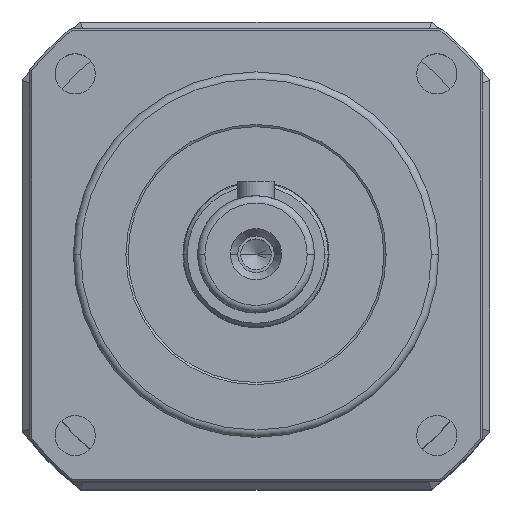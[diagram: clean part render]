
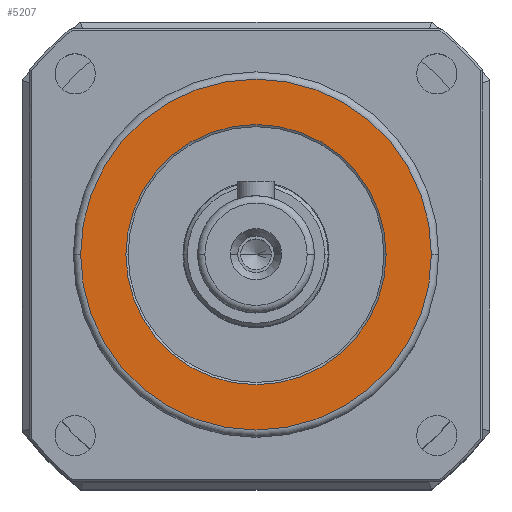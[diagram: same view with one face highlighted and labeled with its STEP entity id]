
A CAD part, top view. The second image highlights one B-rep face of the part: STEP entity #5207.
In plain terms, the highlighted planar face has unit normal (0, 0, 1).
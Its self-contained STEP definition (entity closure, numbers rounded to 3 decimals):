
#3297 = CARTESIAN_POINT ( 'NONE',  ( 0., 0., 7. ) ) ;
#3298 = DIRECTION ( 'NONE',  ( 0., 0., -1. ) ) ;
#3299 = DIRECTION ( 'NONE',  ( 1., 0., 0. ) ) ;
#3300 = CARTESIAN_POINT ( 'NONE',  ( 0., 0., 7. ) ) ;
#3301 = DIRECTION ( 'NONE',  ( 0., 0., 1. ) ) ;
#3302 = DIRECTION ( 'NONE',  ( 1., 0., 0. ) ) ;
#3692 = EDGE_LOOP ( 'NONE', ( #10149, #10151 ) ) ;
#5207 = ADVANCED_FACE ( 'NONE', ( #8643, #8645 ), #7720, .T. ) ;
#5496 = AXIS2_PLACEMENT_3D ( 'NONE', #7721, #7722, #7723 ) ;
#6474 = CIRCLE ( 'NONE', #6488, 24. ) ;
#6479 = CIRCLE ( 'NONE', #6481, 17.8 ) ;
#6481 = AXIS2_PLACEMENT_3D ( 'NONE', #15282, #15283, #15284 ) ;
#6488 = AXIS2_PLACEMENT_3D ( 'NONE', #15293, #15294, #15295 ) ;
#7720 = PLANE ( 'NONE',  #5496 ) ;
#7721 = CARTESIAN_POINT ( 'NONE',  ( 0., 0., 7. ) ) ;
#7722 = DIRECTION ( 'NONE',  ( 0., 0., 1. ) ) ;
#7723 = DIRECTION ( 'NONE',  ( 1., 0., 0. ) ) ;
#8643 = FACE_BOUND ( 'NONE', #3692, .T. ) ;
#8645 = FACE_OUTER_BOUND ( 'NONE', #17922, .T. ) ;
#8788 = CARTESIAN_POINT ( 'NONE',  ( 24., 0., 7. ) ) ;
#8789 = CARTESIAN_POINT ( 'NONE',  ( -24., 0., 7. ) ) ;
#8795 = CARTESIAN_POINT ( 'NONE',  ( 17.8, 0., 7. ) ) ;
#8797 = CARTESIAN_POINT ( 'NONE',  ( -17.8, 0., 7. ) ) ;
#9583 = EDGE_CURVE ( 'NONE', #18395, #18394, #16875, .T. ) ;
#9584 = EDGE_CURVE ( 'NONE', #18391, #18390, #16879, .T. ) ;
#10149 = ORIENTED_EDGE ( 'NONE', *, *, #10447, .T. ) ;
#10151 = ORIENTED_EDGE ( 'NONE', *, *, #9583, .T. ) ;
#10152 = ORIENTED_EDGE ( 'NONE', *, *, #9584, .T. ) ;
#10153 = ORIENTED_EDGE ( 'NONE', *, *, #10451, .T. ) ;
#10447 = EDGE_CURVE ( 'NONE', #18394, #18395, #6479, .T. ) ;
#10451 = EDGE_CURVE ( 'NONE', #18390, #18391, #6474, .T. ) ;
#15282 = CARTESIAN_POINT ( 'NONE',  ( 0., 0., 7. ) ) ;
#15283 = DIRECTION ( 'NONE',  ( 0., 0., -1. ) ) ;
#15284 = DIRECTION ( 'NONE',  ( 1., 0., 0. ) ) ;
#15293 = CARTESIAN_POINT ( 'NONE',  ( 0., 0., 7. ) ) ;
#15294 = DIRECTION ( 'NONE',  ( 0., 0., 1. ) ) ;
#15295 = DIRECTION ( 'NONE',  ( 1., 0., 0. ) ) ;
#16875 = CIRCLE ( 'NONE', #16878, 17.8 ) ;
#16878 = AXIS2_PLACEMENT_3D ( 'NONE', #3297, #3298, #3299 ) ;
#16879 = CIRCLE ( 'NONE', #16880, 24. ) ;
#16880 = AXIS2_PLACEMENT_3D ( 'NONE', #3300, #3301, #3302 ) ;
#17922 = EDGE_LOOP ( 'NONE', ( #10153, #10152 ) ) ;
#18390 = VERTEX_POINT ( 'NONE', #8788 ) ;
#18391 = VERTEX_POINT ( 'NONE', #8789 ) ;
#18394 = VERTEX_POINT ( 'NONE', #8795 ) ;
#18395 = VERTEX_POINT ( 'NONE', #8797 ) ;
